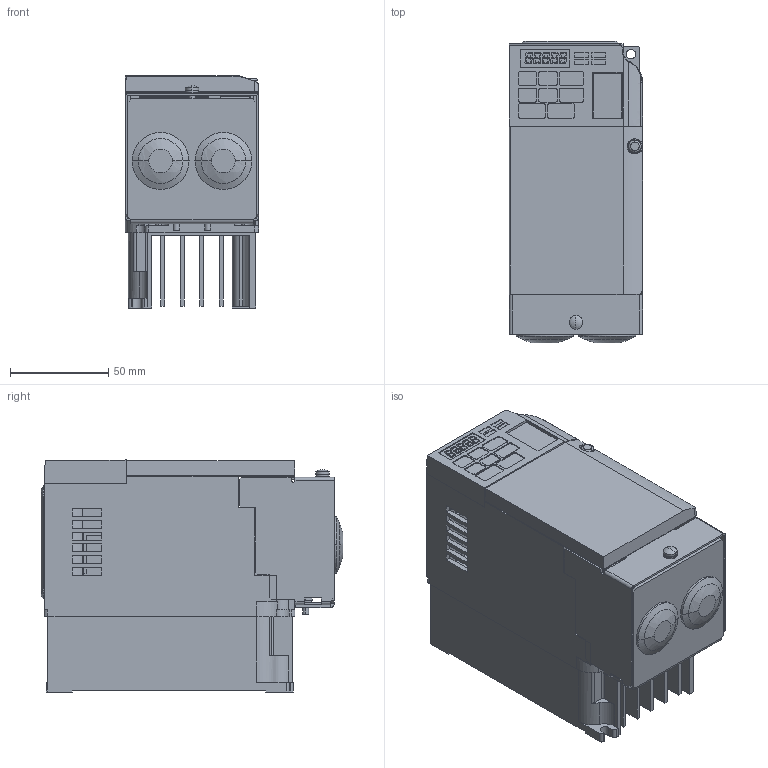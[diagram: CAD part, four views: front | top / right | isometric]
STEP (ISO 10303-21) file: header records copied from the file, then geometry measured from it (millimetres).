
FILE_DESCRIPTION((''),'2;1');
FILE_NAME('VUBA0003FAA_ASM','2009-08-10T',('Proe4321'),(''),'PRO/ENGINEER BY PARAMETRIC TECHNOLOGY CORPORATION, 2007250','PRO/ENGINEER BY PARAMETRIC TECHNOLOGY CORPORATION, 2007250','');
FILE_SCHEMA(('CONFIG_CONTROL_DESIGN'));
Products named in the file (9): VUBA0003FAA_BASE; VUBA0003FAA_COVER1; VUBA0003FAA_COVER2; VUBA0003FAA_COVER3; VUBA0003FAA_COVER4; VUBA0003FAA_COVER5; VUBA0003FAA_COVER6; VUBA0003FAA_GROMMET1; VUBA0003FAA_ASM
Assembly tree (9 placements, depth 2):
  VUBA0003FAA_ASM
    VUBA0003FAA_BASE
    VUBA0003FAA_COVER1
    VUBA0003FAA_COVER2
    VUBA0003FAA_COVER3
    VUBA0003FAA_COVER4
    VUBA0003FAA_COVER5
    VUBA0003FAA_COVER6
    VUBA0003FAA_GROMMET1  x2
Bounding box: 68 x 153.92 x 118.35 mm (x, y, z)
Volume: 286648.5 mm3; surface area: 225855.5 mm2
Topology: 9 solids, 9 shells, 3946 faces, 10618 edges, 6930 vertices
Faces by surface type: plane 3164, cylinder 558, extrusion 105, torus 62, sphere 36, cone 19, bspline 2
Entity records: 122900 total; most frequent: CARTESIAN_POINT 23445, ORIENTED_EDGE 21112, DIRECTION 19436, EDGE_CURVE 10556, VECTOR 8828, LINE 8723, VERTEX_POINT 6912, AXIS2_PLACEMENT_3D 5304
